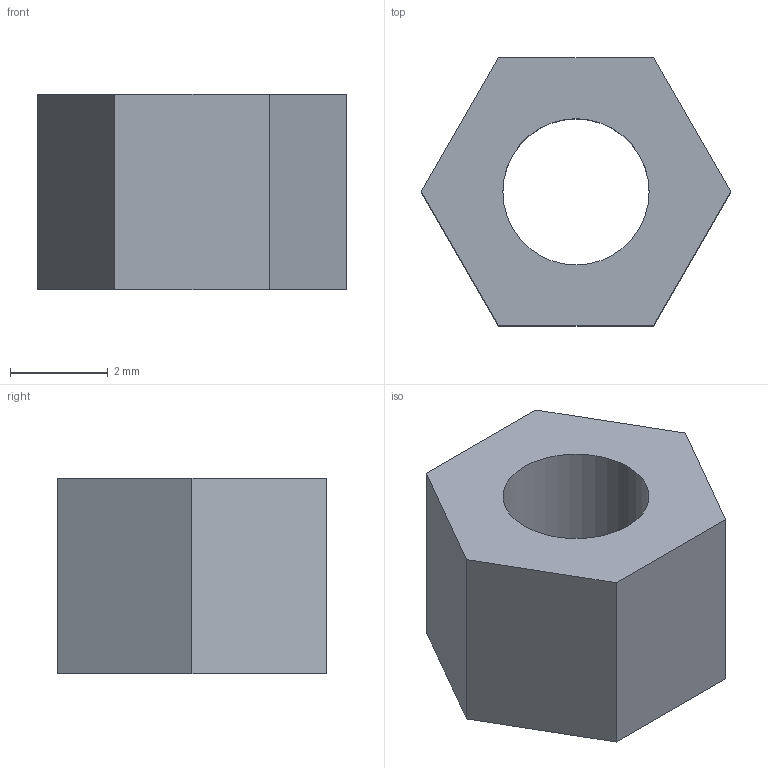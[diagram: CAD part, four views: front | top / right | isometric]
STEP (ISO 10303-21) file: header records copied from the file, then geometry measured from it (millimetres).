
FILE_DESCRIPTION (( 'STEP AP203' ), '1' );
FILE_NAME ('REF_M3_nylock.step', '2026-10-07T08:23:28', ( '' ), ( '' ), 'SwSTEP 2.0', 'SolidWorks 2025', '' );
FILE_SCHEMA (( 'CONFIG_CONTROL_DESIGN' ));
Length unit declared in the file: millimetre
Products named in the file (1): REF_M3_nylock
Bounding box: 6.35 x 5.5 x 4 mm (x, y, z)
Volume: 76.5 mm3; surface area: 152.2 mm2
Topology: 1 solids, 1 shells, 10 faces, 24 edges, 16 vertices
Faces by surface type: plane 8, cylinder 2
Entity records: 373 total; most frequent: CARTESIAN_POINT 51, DIRECTION 50, ORIENTED_EDGE 48, EDGE_CURVE 24, VECTOR 20, LINE 20, VERTEX_POINT 16, AXIS2_PLACEMENT_3D 15
